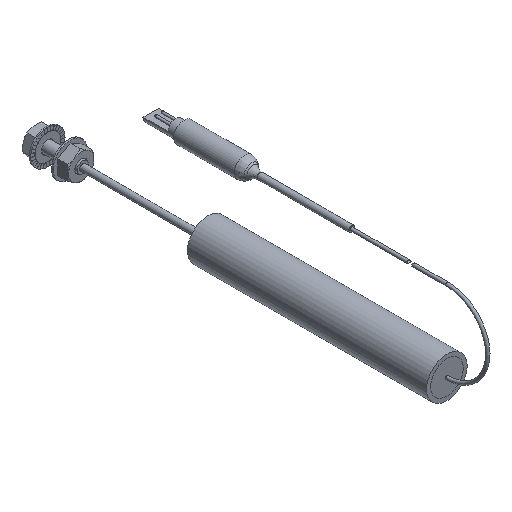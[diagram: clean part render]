
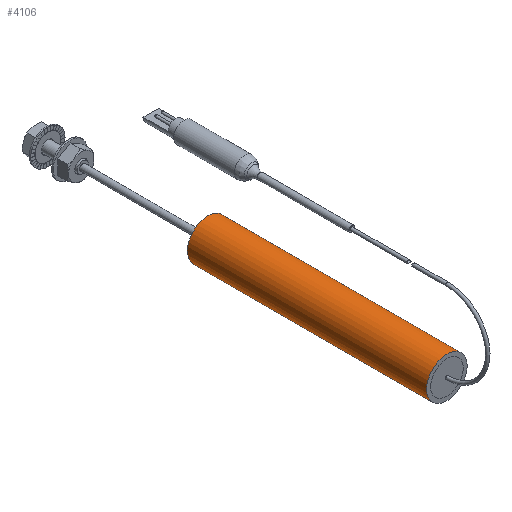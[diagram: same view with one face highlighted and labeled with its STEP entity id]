
A CAD part, isometric view. The second image highlights one B-rep face of the part: STEP entity #4106.
In plain terms, the highlighted cylindrical face has radius 6.35 mm (diameter 12.7 mm), a full revolution.
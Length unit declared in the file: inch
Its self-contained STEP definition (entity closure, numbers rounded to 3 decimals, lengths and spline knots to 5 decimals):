
#1056=FACE_BOUND('',#1402,.T.);
#1136=FACE_OUTER_BOUND('',#1401,.T.);
#1401=EDGE_LOOP('',(#2923));
#1402=EDGE_LOOP('',(#2924));
#1745=CIRCLE('',#4385,0.25);
#1746=CIRCLE('',#4386,0.25);
#1959=VERTEX_POINT('',#6267);
#1960=VERTEX_POINT('',#6269);
#2351=EDGE_CURVE('',#1959,#1959,#1745,.T.);
#2352=EDGE_CURVE('',#1960,#1960,#1746,.T.);
#2923=ORIENTED_EDGE('',*,*,#2351,.F.);
#2924=ORIENTED_EDGE('',*,*,#2352,.F.);
#4066=CYLINDRICAL_SURFACE('',#4384,0.25);
#4106=ADVANCED_FACE('',(#1136,#1056),#4066,.T.);
#4384=AXIS2_PLACEMENT_3D('',#6266,#4911,#4912);
#4385=AXIS2_PLACEMENT_3D('',#6268,#4913,#4914);
#4386=AXIS2_PLACEMENT_3D('',#6270,#4915,#4916);
#4911=DIRECTION('center_axis',(0.,1.,0.));
#4912=DIRECTION('ref_axis',(1.,0.,0.));
#4913=DIRECTION('center_axis',(0.,1.,0.));
#4914=DIRECTION('ref_axis',(1.,0.,0.));
#4915=DIRECTION('center_axis',(0.,-1.,0.));
#4916=DIRECTION('ref_axis',(1.,0.,0.));
#6266=CARTESIAN_POINT('Origin',(0.,0.,0.));
#6267=CARTESIAN_POINT('',(-0.25,2.95276,0.));
#6268=CARTESIAN_POINT('Origin',(0.,2.95276,0.));
#6269=CARTESIAN_POINT('',(-0.25,0.,0.));
#6270=CARTESIAN_POINT('Origin',(0.,0.,0.));
